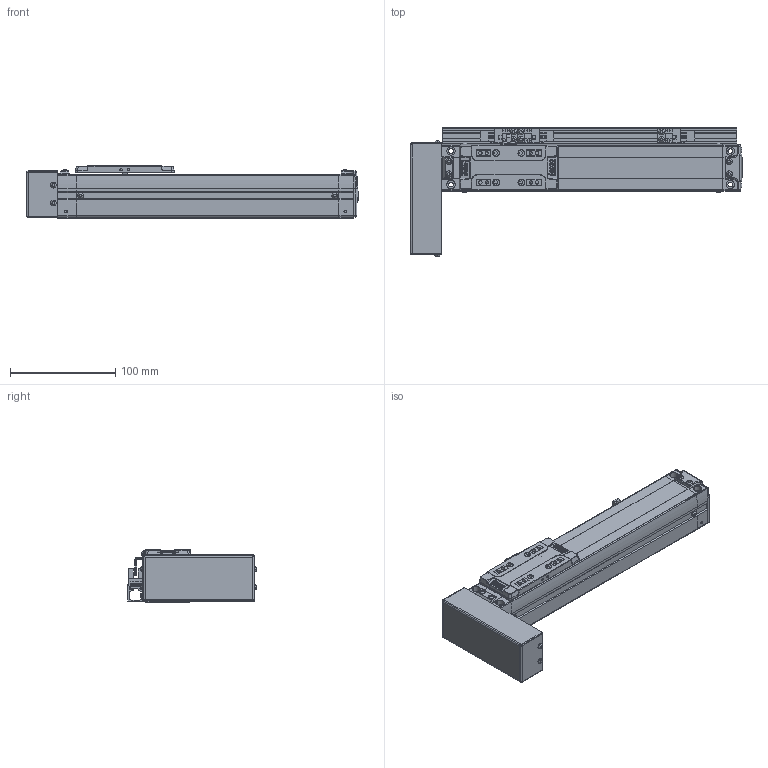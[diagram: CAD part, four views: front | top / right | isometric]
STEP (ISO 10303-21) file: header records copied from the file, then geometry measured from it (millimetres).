
FILE_DESCRIPTION(('STEP AP214'),'1');
FILE_NAME('Z:/Web/3D/SAN45/2013.ver/STP/SAN45-150PR+3SL.stp','2013-05-15T00:23:29',(' '),(' '),'Spatial InterOp 3D',' ',' ');
FILE_SCHEMA(('automotive_design'));
Length unit declared in the file: millimetre
Products named in the file (46): BODY-SAN45; REAR-SAN45; RRCV-SAN45; BHCS M3 x 6L; BHCS M3 X 6L; FRONT-SAN45; SHAFT; RN8 x 0.75; SSFX-SAN45; SLIDE-SAN45; SLCV-IM45; FHCS M3 x 6L; BTCV-SAN45; SRL-16x17-380L; EE-SX674; SBK-SX674-352; SDG-SA45; SCREW M3 x 5L
Bounding box: 316.15 x 123.06 x 50 mm (x, y, z)
Volume: 690815.9 mm3; surface area: 159867.1 mm2
Topology: 46 solids, 46 shells, 2319 faces, 5989 edges, 3849 vertices
Faces by surface type: plane 1288, cylinder 723, cone 142, sphere 84, bspline 44, torus 32, extrusion 6
Entity records: 93979 total; most frequent: CARTESIAN_POINT 16779, DIRECTION 12468, ORIENTED_EDGE 11846, EDGE_CURVE 5923, AXIS2_PLACEMENT_3D 4351, VERTEX_POINT 3849, VECTOR 3766, LINE 3760
